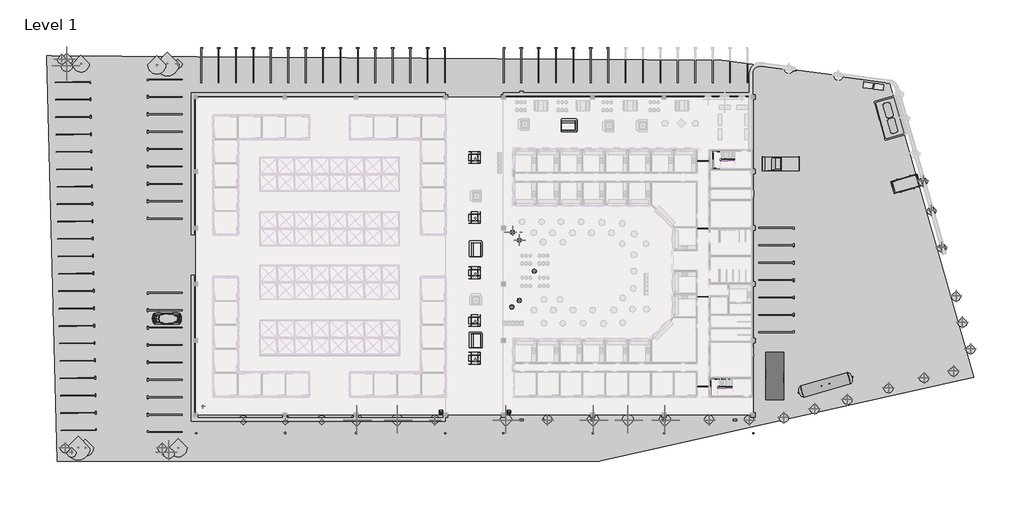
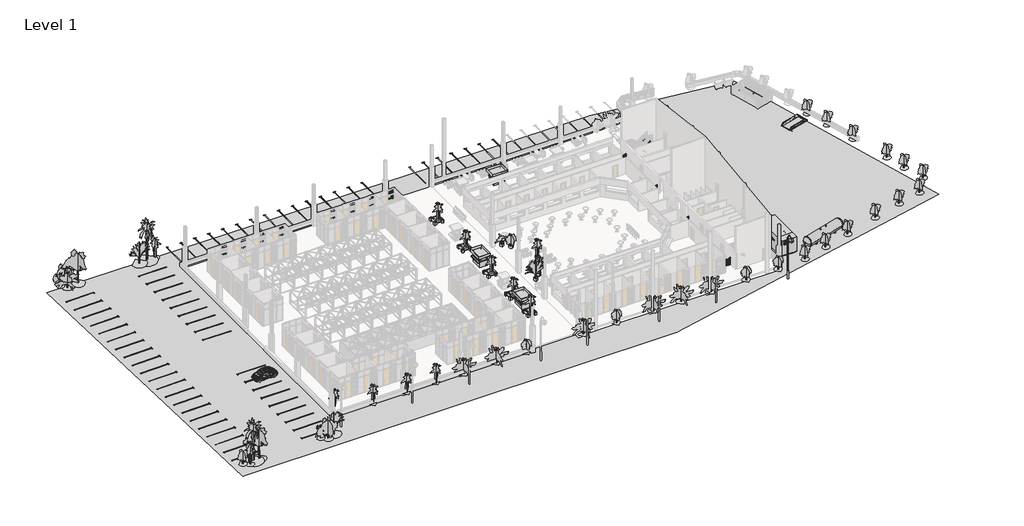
# One storey, part 31 of 32: 62 geographic elements, 30 proxies, 15 members, 1 light fixture.
"""IFC4 building model written with IfcOpenShell, lengths in millimetres."""

from ifc_helpers import new_model, si_unit, frame, origin, place, context, project, spatial, polyline, outline, extrude, faceted_brep, triangles, transform, mapped, element, save
from components import generic_models_99b6d5e4, electrical_equipment_733f82be, electrical_equipment_ca6008a4, generic_models_1cc47fd4, proxy_6_bays_6980b301, proxy_6_fence_ff0b9ed4, proxy_6_fence_7c1e0d6d, food_stall_20505_food_stall_20505_67107a66, parking_bays_standard_uk_6_bays_a1d699d5, parking_bays_standard_uk_6_bays_bfc328e1, rpc_beetle_m_rpc_beetle_m_b6d71803, trash_can_01_m_500_x_500_mm_0c5a7a72, pick_up_truck_a7c124ad, planter_04_circular_m_619_mm_dia_eed0175d, public_seating_02_m_2000_x_1650_mm_aed0595e, public_seating_02_m_2000_x_1650_mm_e61fd811, rpc_tree_tropical_44340318, rpc_tree_tropical_0b38fe0e, rpc_tree_tropical_australian_tree_fern_1_8_meters_0203a3dd, rpc_tree_tropical_cuban_royal_palm_7_5_meters_25244156, rpc_tree_tropical_golden_malay_palm_3_0_meters_7e528e70, rpc_tree_tropical_grass_palm_5_5_meters_0f61173e, rpc_tree_tropical_hurricane_palm_3_6_meters_73a83cb7, rpc_tree_tropical_japanese_fiber_banana_2_4_meters_2e6d15ad, rpc_tree_tropical_orange_tree_3_3_meters_d64634ca, lamp_post_modern_uk_standard_4f9459b1

model = new_model("IFC4")

# Units and contexts
model_context = context("Model", 3, world=origin())
ifc_project = project(units=[si_unit("LENGTHUNIT", "METRE", prefix="MILLI")], contexts=[model_context])

# Site, building, storey
site = spatial("IfcSite", under=ifc_project)
building = spatial("IfcBuilding", under=site)
storey = spatial("IfcBuildingStorey", under=building, Name="Level 1", Elevation=2800.0)

# Proxies
placement = place(None, origin())
element("IfcBuildingElementProxy", 1, Name="Building Element Proxy", at=placement, inside=storey, context=model_context, shape_type="Tessellation", body=[
    triangles([(17614.4562286, -30595.0278625, 2000.0000153), (5938.574144, 10037.7628876, 2000.0000153), (-17114.7751007, 13069.9650146, 2000.0000153), (-110199.4968018, 13693.0014038, 2000.0000153), (-108691.0121338, -42194.1175415, 2000.0000153), (-34061.2697754, -42194.1175415, 2000.0000153), (-47230.3078125, -35805.9190979, 2000.0000153), (-47230.3078125, -32527.7564026, 2000.0000153), (-47230.3078125, 7994.0800735, 2000.0000153), (-18671.2731171, 7994.0800735, 2000.0000153), (-13077.6366394, 7994.0800735, 2000.0000153), (-12800.7709808, 7994.0800735, 2000.0000153), (-12800.7709808, 7645.9763214, 2000.0000153), (-12800.7709808, -35805.9190979, 2000.0000153), (-32102.3567871, -35805.9190979, 2000.0000153), (-42764.2734375, -35805.9190979, 2000.0000153), (-89659.8388916, 7994.0800735, 2000.0000153), (-55230.3078735, 7994.0800735, 2000.0000153), (-55230.3078735, -26655.5822754, 2000.0000153), (-55230.3078735, -35805.9190979, 2000.0000153), (-89659.8388916, -35805.9190979, 2000.0000153), (-89659.8388916, -1383.5533401, 2000.0000153)], [[5, 21, 22], [21, 5, 20], [20, 7, 8], [6, 7, 20], [20, 5, 6], [19, 20, 8], [4, 22, 17], [22, 4, 5], [4, 17, 18], [18, 19, 9], [9, 19, 8], [4, 18, 3], [3, 18, 9], [16, 6, 15], [6, 16, 7], [14, 15, 6], [1, 14, 6], [1, 13, 14], [10, 11, 3], [3, 11, 12], [3, 9, 10], [13, 2, 12], [2, 13, 1], [12, 2, 3]], closed=False),
])
generic_models_shape = generic_models_99b6d5e4(model_context)
element("IfcBuildingElementProxy", 2, Name="Bulk_Fuel_Tank__5000_Gls_11818 : Bulk_Fuel_Tank__5000_Gls_11818", ObjectType="Bulk_Fuel_Tank__5000_Gls_11818 : Bulk_Fuel_Tank__5000_Gls_11818", at=placement, inside=storey, context=model_context, shape_type="MappedRepresentation", body=[
    mapped(generic_models_shape, transform((-2829.7223682, -31674.038548, 1936.7754975), x_axis=(0.9611072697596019, 0.2761753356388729, 0.0), y_axis=(-0.2761753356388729, 0.9611072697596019, 0.0), z_axis=(0.0, 0.0, 1.0))),
])
electrical_equipment_shape = electrical_equipment_733f82be(model_context)
electrical_equipment_2_shape = electrical_equipment_ca6008a4(model_context)
element("IfcBuildingElementProxy", 3, Name="Electrical_Equipment-Generac-Generator-Gemini_1000kW : MD1000GEM - 277v - 3p", ObjectType="Electrical_Equipment-Generac-Generator-Gemini_1000kW : MD1000GEM - 277v - 3p", at=placement, inside=storey, context=model_context, shape_type="MappedRepresentation", body=[
    mapped(electrical_equipment_shape, transform((-8588.2705062, -33715.7565305, 2084.1841253), x_axis=(0.0, 1.0, 0.0), y_axis=(-1.0, 0.0, 0.0), z_axis=(0.0, 0.0, 1.0))),
    mapped(electrical_equipment_2_shape, transform((-8588.2705062, -33715.7565305, 2084.1841253), x_axis=(0.0, 1.0, 0.0), y_axis=(-1.0, 0.0, 0.0), z_axis=(0.0, 0.0, 1.0))),
])
generic_models_2_shape = generic_models_1cc47fd4(model_context)
element("IfcBuildingElementProxy", 4, Name="12_cum_Skip_16496 : 12_cum_Skip_16496", ObjectType="12_cum_Skip_16496 : 12_cum_Skip_16496", at=placement, inside=storey, context=model_context, shape_type="MappedRepresentation", body=[
    mapped(generic_models_2_shape, transform((8210.8101408, -3964.640508, 1313.9419473), x_axis=(0.9621692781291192, 0.2724523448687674, 0.0), y_axis=(-0.2724523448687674, 0.9621692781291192, 0.0), z_axis=(0.0, 0.0, 1.0))),
])
proxy_6_bays_shape = proxy_6_bays_6980b301(model_context)
element("IfcBuildingElementProxy", 5, Name="Parking Bays-Standard (wst)rfa : 6 Bays", ObjectType="Parking Bays-Standard (wst)rfa : 6 Bays", at=placement, inside=storey, context=model_context, shape_type="MappedRepresentation", body=[
    mapped(proxy_6_bays_shape, transform((-12000.7705062, -10025.9199596, 1734.4407222), x_axis=(0.0, 1.0, 0.0), y_axis=(-1.0, 0.0, 0.0), z_axis=(0.0, 0.0, 1.0))),
])
element("IfcBuildingElementProxy", 6, Name="Parking Bays-Standard (wst)rfa : 6 Bays", ObjectType="Parking Bays-Standard (wst)rfa : 6 Bays", at=placement, inside=storey, context=model_context, shape_type="MappedRepresentation", body=[
    mapped(proxy_6_bays_shape, transform((-12000.7705062, -7525.9199596, 1689.33381), x_axis=(0.0, 1.0, 0.0), y_axis=(-1.0, 0.0, 0.0), z_axis=(0.0, 0.0, 1.0))),
])
proxy_6_fence_shape = proxy_6_fence_ff0b9ed4(model_context)
element("IfcBuildingElementProxy", 7, Name="Ornamental_Gate_5113 : 6' Fence", ObjectType="Ornamental_Gate_5113 : 6' Fence", at=placement, inside=storey, context=model_context, shape_type="MappedRepresentation", body=[
    mapped(proxy_6_fence_shape, transform((-18970.7705062, -31905.9199596, 2190.0809456), x_axis=(-1.0, 0.0, 0.0), y_axis=(0.0, -1.0, 0.0), z_axis=(0.0, 0.0, 1.0))),
])
element("IfcBuildingElementProxy", 8, Name="Ornamental_Gate_5113 : 6' Fence", ObjectType="Ornamental_Gate_5113 : 6' Fence", at=placement, inside=storey, context=model_context, shape_type="MappedRepresentation", body=[
    mapped(proxy_6_fence_shape, transform((-18970.7705062, -19534.8949596, 2190.0809456), x_axis=(-1.0, 0.0, 0.0), y_axis=(0.0, -1.0, 0.0), z_axis=(0.0, 0.0, 1.0))),
])
proxy_6_fence_2_shape = proxy_6_fence_7c1e0d6d(model_context)
element("IfcBuildingElementProxy", 9, Name="Ornamental_Gate_5113 : 6' Fence", ObjectType="Ornamental_Gate_5113 : 6' Fence", at=placement, inside=storey, context=model_context, shape_type="MappedRepresentation", body=[
    mapped(proxy_6_fence_2_shape, transform((-18950.7705062, -815.9199596, 2190.0809456), x_axis=(-1.0, 0.0, 0.0), y_axis=(0.0, -1.0, 0.0), z_axis=(0.0, 0.0, 1.0))),
])
element("IfcBuildingElementProxy", 10, Name="Ornamental_Gate_5113 : 6' Fence", ObjectType="Ornamental_Gate_5113 : 6' Fence", at=placement, inside=storey, context=model_context, shape_type="MappedRepresentation", body=[
    mapped(proxy_6_fence_2_shape, transform((-18950.7705062, -10115.9199596, 2190.0809456), x_axis=(-1.0, 0.0, 0.0), y_axis=(0.0, -1.0, 0.0), z_axis=(0.0, 0.0, 1.0))),
])
food_stall_20505_food_stall_20505_shape = food_stall_20505_food_stall_20505_67107a66(model_context)
element("IfcBuildingElementProxy", 11, Name="Food_stall_20505 : Food_stall_20505", ObjectType="Food_stall_20505 : Food_stall_20505", at=placement, inside=storey, context=model_context, shape_type="MappedRepresentation", body=[
    mapped(food_stall_20505_food_stall_20505_shape, transform((-51030.3056755, -25605.9199596, 2800.0), x_axis=(0.0, -1.0, 0.0), y_axis=(1.0, 0.0, 0.0), z_axis=(0.0, 0.0, 1.0))),
])
element("IfcBuildingElementProxy", 12, Name="Food_stall_20505 : Food_stall_20505", ObjectType="Food_stall_20505 : Food_stall_20505", at=placement, inside=storey, context=model_context, shape_type="MappedRepresentation", body=[
    mapped(food_stall_20505_food_stall_20505_shape, transform((-51030.3056755, -13030.9199596, 2800.0), x_axis=(0.0, -1.0, 0.0), y_axis=(1.0, 0.0, 0.0), z_axis=(0.0, 0.0, 1.0))),
])
element("IfcBuildingElementProxy", 13, Name="Food_stall_20505 : Food_stall_20505", ObjectType="Food_stall_20505 : Food_stall_20505", at=placement, inside=storey, context=model_context, shape_type="MappedRepresentation", body=[
    mapped(food_stall_20505_food_stall_20505_shape, transform((-38286.3056755, 4094.0800404, 2800.0), x_axis=(-1.0, 0.0, 0.0), y_axis=(0.0, -1.0, 0.0), z_axis=(0.0, 0.0, 1.0))),
])
parking_bays_standard_uk_6_bays_shape = parking_bays_standard_uk_6_bays_a1d699d5(model_context)
element("IfcBuildingElementProxy", 14, Name="Parking Bays-Standard (UK) : 6 Bays", ObjectType="Parking Bays-Standard (UK) : 6 Bays", at=placement, inside=storey, context=model_context, shape_type="MappedRepresentation", body=[
    mapped(parking_bays_standard_uk_6_bays_shape, transform((-12000.7705062, -24425.9199596, 1984.2565365), x_axis=(0.0, 1.0, 0.0), y_axis=(-1.0, 0.0, 0.0), z_axis=(0.0, 0.0, 1.0))),
])
element("IfcBuildingElementProxy", 15, Name="Parking Bays-Standard (UK) : 6 Bays", ObjectType="Parking Bays-Standard (UK) : 6 Bays", at=placement, inside=storey, context=model_context, shape_type="MappedRepresentation", body=[
    mapped(parking_bays_standard_uk_6_bays_shape, transform((-12000.7705062, -24425.9199596, 2100.0), x_axis=(0.0, 1.0, 0.0), y_axis=(-1.0, 0.0, 0.0), z_axis=(0.0, 0.0, 1.0))),
])
element("IfcBuildingElementProxy", 16, Name="Parking Bays-Standard (UK) : 6 Bays", ObjectType="Parking Bays-Standard (UK) : 6 Bays", at=placement, inside=storey, context=model_context, shape_type="MappedRepresentation", body=[
    mapped(parking_bays_standard_uk_6_bays_shape, transform((-91459.8408447, 5624.0800404, 2100.0), x_axis=(0.0, -1.0, 0.0), y_axis=(1.0, 0.0, 0.0), z_axis=(0.0, 0.0, 1.0))),
])
element("IfcBuildingElementProxy", 17, Name="Parking Bays-Standard (UK) : 6 Bays", ObjectType="Parking Bays-Standard (UK) : 6 Bays", at=placement, inside=storey, context=model_context, shape_type="MappedRepresentation", body=[
    mapped(parking_bays_standard_uk_6_bays_shape, transform((-74480.3056755, 9978.5855015, 2100.0), x_axis=(-1.0, 0.0, 0.0), y_axis=(0.0, -1.0, 0.0), z_axis=(0.0, 0.0, 1.0))),
])
element("IfcBuildingElementProxy", 18, Name="Parking Bays-Standard (UK) : 6 Bays", ObjectType="Parking Bays-Standard (UK) : 6 Bays", at=placement, inside=storey, context=model_context, shape_type="MappedRepresentation", body=[
    mapped(parking_bays_standard_uk_6_bays_shape, transform((-60080.3056755, 9978.5855015, 2100.0), x_axis=(-1.0, 0.0, 0.0), y_axis=(0.0, -1.0, 0.0), z_axis=(0.0, 0.0, 1.0))),
])
element("IfcBuildingElementProxy", 19, Name="Parking Bays-Standard (UK) : 6 Bays", ObjectType="Parking Bays-Standard (UK) : 6 Bays", at=placement, inside=storey, context=model_context, shape_type="MappedRepresentation", body=[
    mapped(parking_bays_standard_uk_6_bays_shape, transform((-55280.3056755, 9978.5855015, 2100.0), x_axis=(-1.0, 0.0, 0.0), y_axis=(0.0, -1.0, 0.0), z_axis=(0.0, 0.0, 1.0))),
])
element("IfcBuildingElementProxy", 20, Name="Parking Bays-Standard (UK) : 6 Bays", ObjectType="Parking Bays-Standard (UK) : 6 Bays", at=placement, inside=storey, context=model_context, shape_type="MappedRepresentation", body=[
    mapped(parking_bays_standard_uk_6_bays_shape, transform((-32780.3056755, 9978.5855015, 2100.0), x_axis=(-1.0, 0.0, 0.0), y_axis=(0.0, -1.0, 0.0), z_axis=(0.0, 0.0, 1.0))),
])
element("IfcBuildingElementProxy", 21, Name="Parking Bays-Standard (UK) : 6 Bays", ObjectType="Parking Bays-Standard (UK) : 6 Bays", at=placement, inside=storey, context=model_context, shape_type="MappedRepresentation", body=[
    mapped(parking_bays_standard_uk_6_bays_shape, transform((-91459.8408447, -18975.9199596, 2100.0), x_axis=(0.0, -1.0, 0.0), y_axis=(1.0, 0.0, 0.0), z_axis=(0.0, 0.0, 1.0))),
])
element("IfcBuildingElementProxy", 22, Name="Parking Bays-Standard (UK) : 6 Bays", ObjectType="Parking Bays-Standard (UK) : 6 Bays", at=placement, inside=storey, context=model_context, shape_type="MappedRepresentation", body=[
    mapped(parking_bays_standard_uk_6_bays_shape, transform((-91459.8408447, -23775.9199596, 2100.0), x_axis=(0.0, -1.0, 0.0), y_axis=(1.0, 0.0, 0.0), z_axis=(0.0, 0.0, 1.0))),
])
element("IfcBuildingElementProxy", 23, Name="Parking Bays-Standard (UK) : 6 Bays", ObjectType="Parking Bays-Standard (UK) : 6 Bays", at=placement, inside=storey, context=model_context, shape_type="MappedRepresentation", body=[
    mapped(parking_bays_standard_uk_6_bays_shape, transform((-91459.8408447, 10424.0800404, 2100.0), x_axis=(0.0, -1.0, 0.0), y_axis=(1.0, 0.0, 0.0), z_axis=(0.0, 0.0, 1.0))),
])
parking_bays_standard_uk_6_bays_2_shape = parking_bays_standard_uk_6_bays_bfc328e1(model_context)
element("IfcBuildingElementProxy", 24, Name="Parking Bays-Standard (UK) : 6 Bays", ObjectType="Parking Bays-Standard (UK) : 6 Bays", at=placement, inside=storey, context=model_context, shape_type="MappedRepresentation", body=[
    mapped(parking_bays_standard_uk_6_bays_2_shape, transform((-108992.8547185, 10017.1018373, 2100.0), x_axis=(0.017059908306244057, -0.9998544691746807, 0.0), y_axis=(0.9998544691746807, 0.017059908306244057, 0.0), z_axis=(0.0, 0.0, 1.0))),
])
element("IfcBuildingElementProxy", 25, Name="Parking Bays-Standard (UK) : 6 Bays", ObjectType="Parking Bays-Standard (UK) : 6 Bays", at=placement, inside=storey, context=model_context, shape_type="MappedRepresentation", body=[
    mapped(parking_bays_standard_uk_6_bays_2_shape, transform((-108747.1920389, -4380.8025188, 2100.0), x_axis=(0.017059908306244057, -0.9998544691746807, 0.0), y_axis=(0.9998544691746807, 0.017059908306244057, 0.0), z_axis=(0.0, 0.0, 1.0))),
])
element("IfcBuildingElementProxy", 26, Name="Parking Bays-Standard (UK) : 6 Bays", ObjectType="Parking Bays-Standard (UK) : 6 Bays", at=placement, inside=storey, context=model_context, shape_type="MappedRepresentation", body=[
    mapped(parking_bays_standard_uk_6_bays_2_shape, transform((-108501.5293593, -18778.7068749, 2100.0), x_axis=(0.017059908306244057, -0.9998544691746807, 0.0), y_axis=(0.9998544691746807, 0.017059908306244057, 0.0), z_axis=(0.0, 0.0, 1.0))),
])
element("IfcBuildingElementProxy", 27, Name="Parking Bays-Standard (UK) : 6 Bays", ObjectType="Parking Bays-Standard (UK) : 6 Bays", at=placement, inside=storey, context=model_context, shape_type="MappedRepresentation", body=[
    mapped(parking_bays_standard_uk_6_bays_2_shape, transform((-108419.6417994, -23578.008327, 2100.0), x_axis=(0.017059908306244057, -0.9998544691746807, 0.0), y_axis=(0.9998544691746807, 0.017059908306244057, 0.0), z_axis=(0.0, 0.0, 1.0))),
])
rpc_beetle_m_rpc_beetle_m_shape = rpc_beetle_m_rpc_beetle_m_b6d71803(model_context)
element("IfcBuildingElementProxy", 28, Name="RPC Beetle (M) : RPC Beetle (M)", ObjectType="RPC Beetle (M) : RPC Beetle (M)", at=placement, inside=storey, context=model_context, shape_type="MappedRepresentation", body=[
    mapped(rpc_beetle_m_rpc_beetle_m_shape, transform((-92376.1556755, -22543.4199596, 2760.0), x_axis=(0.0, 1.0, 0.0), y_axis=(-1.0, 0.0, 0.0), z_axis=(0.0, 0.0, 1.0))),
])
trash_can_01_m_500_x_500_mm_shape = trash_can_01_m_500_x_500_mm_0c5a7a72(model_context)
element("IfcBuildingElementProxy", 29, Name="Trash Can 01 (M) : 500 x 500 mm", ObjectType="Trash Can 01 (M) : 500 x 500 mm", at=placement, inside=storey, context=model_context, shape_type="MappedRepresentation", body=[
    mapped(trash_can_01_m_500_x_500_mm_shape, transform((-55835.2556755, -35405.9199596, 2800.0), x_axis=(1.0, 0.0, 0.0), y_axis=(0.0, 1.0, 0.0), z_axis=(0.0, 0.0, 1.0))),
])
element("IfcBuildingElementProxy", 30, Name="Trash Can 01 (M) : 500 x 500 mm", ObjectType="Trash Can 01 (M) : 500 x 500 mm", at=placement, inside=storey, context=model_context, shape_type="MappedRepresentation", body=[
    mapped(trash_can_01_m_500_x_500_mm_shape, transform((-46485.9339353, -35405.9199596, 2800.0), x_axis=(1.0, 0.0, 0.0), y_axis=(0.0, 1.0, 0.0), z_axis=(0.0, 0.0, 1.0))),
])

# Geographic elements
pick_up_truck_shape = pick_up_truck_a7c124ad(model_context)
element("IfcGeographicElement", 31, ObjectType="Truck-PickUp (M) : Pick-Up Truck", at=placement, inside=storey, context=model_context, shape_type="MappedRepresentation", body=[
    mapped(pick_up_truck_shape, transform((-9505.8320734, -1183.2816502, 1724.4407222), x_axis=(-0.0020718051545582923, -0.9999978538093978, 0.0), y_axis=(0.9999978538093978, -0.0020718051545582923, 0.0), z_axis=(0.0, 0.0, 1.0))),
])
planter_04_circular_m_619_mm_dia_shape = planter_04_circular_m_619_mm_dia_eed0175d(model_context)
element("IfcGeographicElement", 32, ObjectType="Planter 04-Circular (M) : 619 mm dia.", at=placement, inside=storey, context=model_context, shape_type="MappedRepresentation", body=[
    mapped(planter_04_circular_m_619_mm_dia_shape, transform((-46067.2300011, -20928.1246713, 2800.0), x_axis=(-1.0, 0.0, 0.0), y_axis=(0.0, -1.0, 0.0), z_axis=(0.0, 0.0, 1.0))),
])
element("IfcGeographicElement", 33, ObjectType="Planter 04-Circular (M) : 619 mm dia.", at=placement, inside=storey, context=model_context, shape_type="MappedRepresentation", body=[
    mapped(planter_04_circular_m_619_mm_dia_shape, transform((-45020.6817479, -20043.4199596, 2800.0), x_axis=(-1.0, 0.0, 0.0), y_axis=(0.0, -1.0, 0.0), z_axis=(0.0, 0.0, 1.0))),
])
element("IfcGeographicElement", 34, ObjectType="Planter 04-Circular (M) : 619 mm dia.", at=placement, inside=storey, context=model_context, shape_type="MappedRepresentation", body=[
    mapped(planter_04_circular_m_619_mm_dia_shape, transform((-42970.2320244, -15996.8561673, 2800.0), x_axis=(-1.0, 0.0, 0.0), y_axis=(0.0, -1.0, 0.0), z_axis=(0.0, 0.0, 1.0))),
])
element("IfcGeographicElement", 35, ObjectType="Planter 04-Circular (M) : 619 mm dia.", at=placement, inside=storey, context=model_context, shape_type="MappedRepresentation", body=[
    mapped(planter_04_circular_m_619_mm_dia_shape, transform((-45020.6817479, -11747.6761919, 2800.0), x_axis=(-1.0, 0.0, 0.0), y_axis=(0.0, -1.0, 0.0), z_axis=(0.0, 0.0, 1.0))),
])
element("IfcGeographicElement", 36, ObjectType="Planter 04-Circular (M) : 619 mm dia.", at=placement, inside=storey, context=model_context, shape_type="MappedRepresentation", body=[
    mapped(planter_04_circular_m_619_mm_dia_shape, transform((-45971.9493366, -10636.4086032, 2800.0), x_axis=(-1.0, 0.0, 0.0), y_axis=(0.0, -1.0, 0.0), z_axis=(0.0, 0.0, 1.0))),
])
public_seating_02_m_2000_x_1650_mm_shape = public_seating_02_m_2000_x_1650_mm_aed0595e(model_context)
element("IfcGeographicElement", 37, ObjectType="Public Seating 02 (M) : 2000 x 1650 mm", at=placement, inside=storey, context=model_context, shape_type="MappedRepresentation", body=[
    mapped(public_seating_02_m_2000_x_1650_mm_shape, transform((-51230.3056755, -16210.9199596, 2800.0), x_axis=(-1.0, 0.0, 0.0), y_axis=(0.0, -1.0, 0.0), z_axis=(0.0, 0.0, 1.0))),
])
element("IfcGeographicElement", 38, ObjectType="Public Seating 02 (M) : 2000 x 1650 mm", at=placement, inside=storey, context=model_context, shape_type="MappedRepresentation", body=[
    mapped(public_seating_02_m_2000_x_1650_mm_shape, transform((-51230.3056755, -22763.1175809, 2800.0), x_axis=(-1.0, 0.0, 0.0), y_axis=(0.0, -1.0, 0.0), z_axis=(0.0, 0.0, 1.0))),
])
element("IfcGeographicElement", 39, ObjectType="Public Seating 02 (M) : 2000 x 1650 mm", at=placement, inside=storey, context=model_context, shape_type="MappedRepresentation", body=[
    mapped(public_seating_02_m_2000_x_1650_mm_shape, transform((-51230.3056755, -27985.9199596, 2800.0), x_axis=(-1.0, 0.0, 0.0), y_axis=(0.0, -1.0, 0.0), z_axis=(0.0, 0.0, 1.0))),
])
element("IfcGeographicElement", 40, ObjectType="Public Seating 02 (M) : 2000 x 1650 mm", at=placement, inside=storey, context=model_context, shape_type="MappedRepresentation", body=[
    mapped(public_seating_02_m_2000_x_1650_mm_shape, transform((-51230.3056755, -8579.1082733, 2800.0), x_axis=(-1.0, 0.0, 0.0), y_axis=(0.0, -1.0, 0.0), z_axis=(0.0, 0.0, 1.0))),
])
public_seating_02_m_2000_x_1650_mm_2_shape = public_seating_02_m_2000_x_1650_mm_e61fd811(model_context)
element("IfcGeographicElement", 41, ObjectType="Public Seating 02 (M) : 2000 x 1650 mm", at=placement, inside=storey, context=model_context, shape_type="MappedRepresentation", body=[
    mapped(public_seating_02_m_2000_x_1650_mm_2_shape, transform((-51230.3056755, -348.4199596, 2800.0), x_axis=(-1.0, 0.0, 0.0), y_axis=(0.0, -1.0, 0.0), z_axis=(0.0, 0.0, 1.0))),
])
rpc_tree_tropical_shape = rpc_tree_tropical_44340318(model_context)
element("IfcGeographicElement", 42, ObjectType="RPC Tree - Tropical : Travelers Palm - 3.9 Meters", at=placement, inside=storey, context=model_context, shape_type="MappedRepresentation", body=[
    mapped(rpc_tree_tropical_shape, transform((-46073.1740961, -20932.3952729, 2800.0), x_axis=(-1.0, 0.0, 0.0), y_axis=(0.0, -1.0, 0.0), z_axis=(0.0, 0.0, 1.0))),
])
element("IfcGeographicElement", 43, ObjectType="RPC Tree - Tropical : Travelers Palm - 3.9 Meters", at=placement, inside=storey, context=model_context, shape_type="MappedRepresentation", body=[
    mapped(rpc_tree_tropical_shape, transform((-92052.4495654, -40341.919367, 2800.0), x_axis=(1.0, 0.0, 0.0), y_axis=(0.0, 1.0, 0.0), z_axis=(0.0, 0.0, 1.0))),
])
element("IfcGeographicElement", 44, ObjectType="RPC Tree - Tropical : Travelers Palm - 3.9 Meters", at=placement, inside=storey, context=model_context, shape_type="MappedRepresentation", body=[
    mapped(rpc_tree_tropical_shape, transform((-94991.1290026, 12426.2216008, 2800.0), x_axis=(1.0, 0.0, 0.0), y_axis=(0.0, 1.0, 0.0), z_axis=(0.0, 0.0, 1.0))),
])
rpc_tree_tropical_2_shape = rpc_tree_tropical_0b38fe0e(model_context)
element("IfcGeographicElement", 45, ObjectType="RPC Tree - Tropical : Windmill Palm - 2.4 Meters", at=placement, inside=storey, context=model_context, shape_type="MappedRepresentation", body=[
    mapped(rpc_tree_tropical_2_shape, transform((-45015.1090044, -11747.7041227, 2800.0), x_axis=(-1.0, 0.0, 0.0), y_axis=(0.0, -1.0, 0.0), z_axis=(0.0, 0.0, 1.0))),
])
element("IfcGeographicElement", 46, ObjectType="RPC Tree - Tropical : Windmill Palm - 2.4 Meters", at=placement, inside=storey, context=model_context, shape_type="MappedRepresentation", body=[
    mapped(rpc_tree_tropical_2_shape, transform((-13354.9971862, -36543.6597127, 2800.0), x_axis=(-1.0, 0.0, 0.0), y_axis=(0.0, -1.0, 0.0), z_axis=(0.0, 0.0, 1.0))),
])
element("IfcGeographicElement", 47, ObjectType="RPC Tree - Tropical : Windmill Palm - 2.4 Meters", at=placement, inside=storey, context=model_context, shape_type="MappedRepresentation", body=[
    mapped(rpc_tree_tropical_2_shape, transform((-18871.8287804, -36543.6597127, 2800.0), x_axis=(-1.0, 0.0, 0.0), y_axis=(0.0, -1.0, 0.0), z_axis=(0.0, 0.0, 1.0))),
])
element("IfcGeographicElement", 48, ObjectType="RPC Tree - Tropical : Windmill Palm - 2.4 Meters", at=placement, inside=storey, context=model_context, shape_type="MappedRepresentation", body=[
    mapped(rpc_tree_tropical_2_shape, transform((-41171.9922095, -36543.6597127, 2800.0), x_axis=(-1.0, 0.0, 0.0), y_axis=(0.0, -1.0, 0.0), z_axis=(0.0, 0.0, 1.0))),
])
element("IfcGeographicElement", 49, ObjectType="RPC Tree - Tropical : Windmill Palm - 2.4 Meters", at=placement, inside=storey, context=model_context, shape_type="MappedRepresentation", body=[
    mapped(rpc_tree_tropical_2_shape, transform((-56671.9922095, -36543.6597127, 2800.0), x_axis=(-1.0, 0.0, 0.0), y_axis=(0.0, -1.0, 0.0), z_axis=(0.0, 0.0, 1.0))),
])
element("IfcGeographicElement", 50, ObjectType="RPC Tree - Tropical : Windmill Palm - 2.4 Meters", at=placement, inside=storey, context=model_context, shape_type="MappedRepresentation", body=[
    mapped(rpc_tree_tropical_2_shape, transform((-107652.4495654, -40341.919367, 2800.0), x_axis=(1.0, 0.0, 0.0), y_axis=(0.0, 1.0, 0.0), z_axis=(0.0, 0.0, 1.0))),
])
element("IfcGeographicElement", 51, ObjectType="RPC Tree - Tropical : Windmill Palm - 2.4 Meters", at=placement, inside=storey, context=model_context, shape_type="MappedRepresentation", body=[
    mapped(rpc_tree_tropical_2_shape, transform((-107400.7887613, 13244.4843266, 2800.0), x_axis=(1.0, 0.0, 0.0), y_axis=(0.0, 1.0, 0.0), z_axis=(0.0, 0.0, 1.0))),
])
element("IfcGeographicElement", 52, ObjectType="RPC Tree - Tropical : Windmill Palm - 2.4 Meters", at=placement, inside=storey, context=model_context, shape_type="MappedRepresentation", body=[
    mapped(rpc_tree_tropical_2_shape, transform((10611.4960584, -3554.559944, 2800.0), x_axis=(1.0, 0.0, 0.0), y_axis=(0.0, 1.0, 0.0), z_axis=(0.0, 0.0, 1.0))),
])
element("IfcGeographicElement", 53, ObjectType="RPC Tree - Tropical : Windmill Palm - 2.4 Meters", at=placement, inside=storey, context=model_context, shape_type="MappedRepresentation", body=[
    mapped(rpc_tree_tropical_2_shape, transform((11754.9108443, -7595.9214259, 2800.0), x_axis=(1.0, 0.0, 0.0), y_axis=(0.0, 1.0, 0.0), z_axis=(0.0, 0.0, 1.0))),
])
element("IfcGeographicElement", 54, ObjectType="RPC Tree - Tropical : Windmill Palm - 2.4 Meters", at=placement, inside=storey, context=model_context, shape_type="MappedRepresentation", body=[
    mapped(rpc_tree_tropical_2_shape, transform((13197.7914074, -12695.7347245, 2800.0), x_axis=(1.0, 0.0, 0.0), y_axis=(0.0, 1.0, 0.0), z_axis=(0.0, 0.0, 1.0))),
])
element("IfcGeographicElement", 55, ObjectType="RPC Tree - Tropical : Windmill Palm - 2.4 Meters", at=placement, inside=storey, context=model_context, shape_type="MappedRepresentation", body=[
    mapped(rpc_tree_tropical_2_shape, transform((15166.1991595, -19407.8134931, 2800.0), x_axis=(1.0, 0.0, 0.0), y_axis=(0.0, 1.0, 0.0), z_axis=(0.0, 0.0, 1.0))),
])
element("IfcGeographicElement", 56, ObjectType="RPC Tree - Tropical : Windmill Palm - 2.4 Meters", at=placement, inside=storey, context=model_context, shape_type="MappedRepresentation", body=[
    mapped(rpc_tree_tropical_2_shape, transform((17177.4374899, -26697.0081659, 2800.0), x_axis=(1.0, 0.0, 0.0), y_axis=(0.0, 1.0, 0.0), z_axis=(0.0, 0.0, 1.0))),
])
element("IfcGeographicElement", 57, ObjectType="RPC Tree - Tropical : Windmill Palm - 2.4 Meters", at=placement, inside=storey, context=model_context, shape_type="MappedRepresentation", body=[
    mapped(rpc_tree_tropical_2_shape, transform((14826.0260001, -29749.4834736, 2800.0), x_axis=(1.0, 0.0, 0.0), y_axis=(0.0, 1.0, 0.0), z_axis=(0.0, 0.0, 1.0))),
])
element("IfcGeographicElement", 58, ObjectType="RPC Tree - Tropical : Windmill Palm - 2.4 Meters", at=placement, inside=storey, context=model_context, shape_type="MappedRepresentation", body=[
    mapped(rpc_tree_tropical_2_shape, transform((10764.1879189, -30685.6235609, 2800.0), x_axis=(1.0, 0.0, 0.0), y_axis=(0.0, 1.0, 0.0), z_axis=(0.0, 0.0, 1.0))),
])
element("IfcGeographicElement", 59, ObjectType="RPC Tree - Tropical : Windmill Palm - 2.4 Meters", at=placement, inside=storey, context=model_context, shape_type="MappedRepresentation", body=[
    mapped(rpc_tree_tropical_2_shape, transform((5857.1246005, -32075.1305197, 2800.0), x_axis=(1.0, 0.0, 0.0), y_axis=(0.0, 1.0, 0.0), z_axis=(0.0, 0.0, 1.0))),
])
element("IfcGeographicElement", 60, ObjectType="RPC Tree - Tropical : Windmill Palm - 2.4 Meters", at=placement, inside=storey, context=model_context, shape_type="MappedRepresentation", body=[
    mapped(rpc_tree_tropical_2_shape, transform((180.0128081, -33681.493398, 2800.0), x_axis=(1.0, 0.0, 0.0), y_axis=(0.0, 1.0, 0.0), z_axis=(0.0, 0.0, 1.0))),
])
element("IfcGeographicElement", 61, ObjectType="RPC Tree - Tropical : Windmill Palm - 2.4 Meters", at=placement, inside=storey, context=model_context, shape_type="MappedRepresentation", body=[
    mapped(rpc_tree_tropical_2_shape, transform((-4342.463136, -34961.0289916, 2800.0), x_axis=(1.0, 0.0, 0.0), y_axis=(0.0, 1.0, 0.0), z_axis=(0.0, 0.0, 1.0))),
])
element("IfcGeographicElement", 62, ObjectType="RPC Tree - Tropical : Windmill Palm - 2.4 Meters", at=placement, inside=storey, context=model_context, shape_type="MappedRepresentation", body=[
    mapped(rpc_tree_tropical_2_shape, transform((-8576.2414218, -36158.994528, 2800.0), x_axis=(1.0, 0.0, 0.0), y_axis=(0.0, 1.0, 0.0), z_axis=(0.0, 0.0, 1.0))),
])
element("IfcGeographicElement", 63, ObjectType="RPC Tree - Tropical : Windmill Palm - 2.4 Meters", at=placement, inside=storey, context=model_context, shape_type="MappedRepresentation", body=[
    mapped(rpc_tree_tropical_2_shape, transform((16044.8129424, -23010.2842172, 2800.0), x_axis=(1.0, 0.0, 0.0), y_axis=(0.0, 1.0, 0.0), z_axis=(0.0, 0.0, 1.0))),
])
rpc_tree_tropical_australian_tree_fern_1_8_meters_shape = rpc_tree_tropical_australian_tree_fern_1_8_meters_0203a3dd(model_context)
element("IfcGeographicElement", 64, ObjectType="RPC Tree - Tropical : Australian Tree Fern - 1.8 Meters", at=placement, inside=storey, context=model_context, shape_type="MappedRepresentation", body=[
    mapped(rpc_tree_tropical_australian_tree_fern_1_8_meters_shape, transform((-45940.1090044, -10638.3199596, 2800.0), x_axis=(-1.0, 0.0, 0.0), y_axis=(0.0, -1.0, 0.0), z_axis=(0.0, 0.0, 1.0))),
])
rpc_tree_tropical_cuban_royal_palm_7_5_meters_shape = rpc_tree_tropical_cuban_royal_palm_7_5_meters_25244156(model_context)
element("IfcGeographicElement", 65, ObjectType="RPC Tree - Tropical : Cuban Royal Palm - 7.5 Meters", at=placement, inside=storey, context=model_context, shape_type="MappedRepresentation", body=[
    mapped(rpc_tree_tropical_cuban_royal_palm_7_5_meters_shape, transform((-93552.4495654, 12594.0800404, 2800.0), x_axis=(1.0, 0.0, 0.0), y_axis=(0.0, 1.0, 0.0), z_axis=(0.0, 0.0, 1.0))),
])
element("IfcGeographicElement", 66, ObjectType="RPC Tree - Tropical : Cuban Royal Palm - 7.5 Meters", at=placement, inside=storey, context=model_context, shape_type="MappedRepresentation", body=[
    mapped(rpc_tree_tropical_cuban_royal_palm_7_5_meters_shape, transform((-105848.14242, -40341.919367, 2800.0), x_axis=(1.0, 0.0, 0.0), y_axis=(0.0, 1.0, 0.0), z_axis=(0.0, 0.0, 1.0))),
])
rpc_tree_tropical_golden_malay_palm_3_0_meters_shape = rpc_tree_tropical_golden_malay_palm_3_0_meters_7e528e70(model_context)
element("IfcGeographicElement", 67, ObjectType="RPC Tree - Tropical : Golden Malay Palm - 3.0 Meters", at=placement, inside=storey, context=model_context, shape_type="MappedRepresentation", body=[
    mapped(rpc_tree_tropical_golden_malay_palm_3_0_meters_shape, transform((-24971.8287804, -36543.6597127, 2800.0), x_axis=(-1.0, 0.0, 0.0), y_axis=(0.0, -1.0, 0.0), z_axis=(0.0, 0.0, 1.0))),
])
element("IfcGeographicElement", 68, ObjectType="RPC Tree - Tropical : Golden Malay Palm - 3.0 Meters", at=placement, inside=storey, context=model_context, shape_type="MappedRepresentation", body=[
    mapped(rpc_tree_tropical_golden_malay_palm_3_0_meters_shape, transform((-30071.9922095, -36543.6597127, 2800.0), x_axis=(-1.0, 0.0, 0.0), y_axis=(0.0, -1.0, 0.0), z_axis=(0.0, 0.0, 1.0))),
])
element("IfcGeographicElement", 69, ObjectType="RPC Tree - Tropical : Golden Malay Palm - 3.0 Meters", at=placement, inside=storey, context=model_context, shape_type="MappedRepresentation", body=[
    mapped(rpc_tree_tropical_golden_malay_palm_3_0_meters_shape, transform((-34871.9922095, -36543.6597127, 2800.0), x_axis=(-1.0, 0.0, 0.0), y_axis=(0.0, -1.0, 0.0), z_axis=(0.0, 0.0, 1.0))),
])
element("IfcGeographicElement", 70, ObjectType="RPC Tree - Tropical : Golden Malay Palm - 3.0 Meters", at=placement, inside=storey, context=model_context, shape_type="MappedRepresentation", body=[
    mapped(rpc_tree_tropical_golden_malay_palm_3_0_meters_shape, transform((-46871.9922095, -36543.6597127, 2800.0), x_axis=(-1.0, 0.0, 0.0), y_axis=(0.0, -1.0, 0.0), z_axis=(0.0, 0.0, 1.0))),
])
element("IfcGeographicElement", 71, ObjectType="RPC Tree - Tropical : Golden Malay Palm - 3.0 Meters", at=placement, inside=storey, context=model_context, shape_type="MappedRepresentation", body=[
    mapped(rpc_tree_tropical_golden_malay_palm_3_0_meters_shape, transform((-61871.9922095, -36543.6597127, 2800.0), x_axis=(-1.0, 0.0, 0.0), y_axis=(0.0, -1.0, 0.0), z_axis=(0.0, 0.0, 1.0))),
])
element("IfcGeographicElement", 72, ObjectType="RPC Tree - Tropical : Golden Malay Palm - 3.0 Meters", at=placement, inside=storey, context=model_context, shape_type="MappedRepresentation", body=[
    mapped(rpc_tree_tropical_golden_malay_palm_3_0_meters_shape, transform((-67471.9922095, -36543.6597127, 2800.0), x_axis=(-1.0, 0.0, 0.0), y_axis=(0.0, -1.0, 0.0), z_axis=(0.0, 0.0, 1.0))),
])
element("IfcGeographicElement", 73, ObjectType="RPC Tree - Tropical : Golden Malay Palm - 3.0 Meters", at=placement, inside=storey, context=model_context, shape_type="MappedRepresentation", body=[
    mapped(rpc_tree_tropical_golden_malay_palm_3_0_meters_shape, transform((-107400.7887613, 12333.6379653, 2800.0), x_axis=(1.0, 0.0, 0.0), y_axis=(0.0, 1.0, 0.0), z_axis=(0.0, 0.0, 1.0))),
])
rpc_tree_tropical_grass_palm_5_5_meters_shape = rpc_tree_tropical_grass_palm_5_5_meters_0f61173e(model_context)
element("IfcGeographicElement", 74, ObjectType="RPC Tree - Tropical : Grass Palm - 5.5 Meters", at=placement, inside=storey, context=model_context, shape_type="MappedRepresentation", body=[
    mapped(rpc_tree_tropical_grass_palm_5_5_meters_shape, transform((-104852.4495654, -40341.919367, 2800.0), x_axis=(1.0, 0.0, 0.0), y_axis=(0.0, 1.0, 0.0), z_axis=(0.0, 0.0, 1.0))),
])
element("IfcGeographicElement", 75, ObjectType="RPC Tree - Tropical : Grass Palm - 5.5 Meters", at=placement, inside=storey, context=model_context, shape_type="MappedRepresentation", body=[
    mapped(rpc_tree_tropical_grass_palm_5_5_meters_shape, transform((-105452.4495654, 12594.0800404, 2800.0), x_axis=(1.0, 0.0, 0.0), y_axis=(0.0, 1.0, 0.0), z_axis=(0.0, 0.0, 1.0))),
])
rpc_tree_tropical_hurricane_palm_3_6_meters_shape = rpc_tree_tropical_hurricane_palm_3_6_meters_73a83cb7(model_context)
element("IfcGeographicElement", 76, ObjectType="RPC Tree - Tropical : Hurricane Palm - 3.6 Meters", at=placement, inside=storey, context=model_context, shape_type="MappedRepresentation", body=[
    mapped(rpc_tree_tropical_hurricane_palm_3_6_meters_shape, transform((-45015.1090044, -20043.4199596, 2800.0), x_axis=(-1.0, 0.0, 0.0), y_axis=(0.0, -1.0, 0.0), z_axis=(0.0, 0.0, 1.0))),
])
element("IfcGeographicElement", 77, ObjectType="RPC Tree - Tropical : Hurricane Palm - 3.6 Meters", at=placement, inside=storey, context=model_context, shape_type="MappedRepresentation", body=[
    mapped(rpc_tree_tropical_hurricane_palm_3_6_meters_shape, transform((-42985.5738351, -16008.3806831, 2800.0), x_axis=(-1.0, 0.0, 0.0), y_axis=(0.0, -1.0, 0.0), z_axis=(0.0, 0.0, 1.0))),
])
element("IfcGeographicElement", 78, ObjectType="RPC Tree - Tropical : Hurricane Palm - 3.6 Meters", at=placement, inside=storey, context=model_context, shape_type="MappedRepresentation", body=[
    mapped(rpc_tree_tropical_hurricane_palm_3_6_meters_shape, transform((-51077.6352993, -16368.3806831, 2800.0), x_axis=(-1.0, 0.0, 0.0), y_axis=(0.0, -1.0, 0.0), z_axis=(0.0, 0.0, 1.0))),
])
element("IfcGeographicElement", 79, ObjectType="RPC Tree - Tropical : Hurricane Palm - 3.6 Meters", at=placement, inside=storey, context=model_context, shape_type="MappedRepresentation", body=[
    mapped(rpc_tree_tropical_hurricane_palm_3_6_meters_shape, transform((-51077.6352993, -8736.5689968, 2800.0), x_axis=(-1.0, 0.0, 0.0), y_axis=(0.0, -1.0, 0.0), z_axis=(0.0, 0.0, 1.0))),
])
element("IfcGeographicElement", 80, ObjectType="RPC Tree - Tropical : Hurricane Palm - 3.6 Meters", at=placement, inside=storey, context=model_context, shape_type="MappedRepresentation", body=[
    mapped(rpc_tree_tropical_hurricane_palm_3_6_meters_shape, transform((-51077.6352993, -503.9252621, 2800.0), x_axis=(-1.0, 0.0, 0.0), y_axis=(0.0, -1.0, 0.0), z_axis=(0.0, 0.0, 1.0))),
])
element("IfcGeographicElement", 81, ObjectType="RPC Tree - Tropical : Hurricane Palm - 3.6 Meters", at=placement, inside=storey, context=model_context, shape_type="MappedRepresentation", body=[
    mapped(rpc_tree_tropical_hurricane_palm_3_6_meters_shape, transform((-51077.6352993, -22920.5783044, 2800.0), x_axis=(-1.0, 0.0, 0.0), y_axis=(0.0, -1.0, 0.0), z_axis=(0.0, 0.0, 1.0))),
])
element("IfcGeographicElement", 82, ObjectType="RPC Tree - Tropical : Hurricane Palm - 3.6 Meters", at=placement, inside=storey, context=model_context, shape_type="MappedRepresentation", body=[
    mapped(rpc_tree_tropical_hurricane_palm_3_6_meters_shape, transform((-51077.6352993, -28137.4029726, 2800.0), x_axis=(-1.0, 0.0, 0.0), y_axis=(0.0, -1.0, 0.0), z_axis=(0.0, 0.0, 1.0))),
])
element("IfcGeographicElement", 83, ObjectType="RPC Tree - Tropical : Hurricane Palm - 3.6 Meters", at=placement, inside=storey, context=model_context, shape_type="MappedRepresentation", body=[
    mapped(rpc_tree_tropical_hurricane_palm_3_6_meters_shape, transform((-72271.9922095, -36543.6597127, 2800.0), x_axis=(-1.0, 0.0, 0.0), y_axis=(0.0, -1.0, 0.0), z_axis=(0.0, 0.0, 1.0))),
])
element("IfcGeographicElement", 84, ObjectType="RPC Tree - Tropical : Hurricane Palm - 3.6 Meters", at=placement, inside=storey, context=model_context, shape_type="MappedRepresentation", body=[
    mapped(rpc_tree_tropical_hurricane_palm_3_6_meters_shape, transform((-77271.9922095, -36543.6597127, 2800.0), x_axis=(-1.0, 0.0, 0.0), y_axis=(0.0, -1.0, 0.0), z_axis=(0.0, 0.0, 1.0))),
])
element("IfcGeographicElement", 85, ObjectType="RPC Tree - Tropical : Hurricane Palm - 3.6 Meters", at=placement, inside=storey, context=model_context, shape_type="MappedRepresentation", body=[
    mapped(rpc_tree_tropical_hurricane_palm_3_6_meters_shape, transform((-83071.9922095, -36543.6597127, 2800.0), x_axis=(-1.0, 0.0, 0.0), y_axis=(0.0, -1.0, 0.0), z_axis=(0.0, 0.0, 1.0))),
])
element("IfcGeographicElement", 86, ObjectType="RPC Tree - Tropical : Hurricane Palm - 3.6 Meters", at=placement, inside=storey, context=model_context, shape_type="MappedRepresentation", body=[
    mapped(rpc_tree_tropical_hurricane_palm_3_6_meters_shape, transform((-88652.0562232, -34638.667229, 2800.0), x_axis=(-1.0, 0.0, 0.0), y_axis=(0.0, -1.0, 0.0), z_axis=(0.0, 0.0, 1.0))),
])
element("IfcGeographicElement", 87, ObjectType="RPC Tree - Tropical : Hurricane Palm - 3.6 Meters", at=placement, inside=storey, context=model_context, shape_type="MappedRepresentation", body=[
    mapped(rpc_tree_tropical_hurricane_palm_3_6_meters_shape, transform((-106735.5260714, -40984.09382, 2800.0), x_axis=(1.0, 0.0, 0.0), y_axis=(0.0, 1.0, 0.0), z_axis=(0.0, 0.0, 1.0))),
])
element("IfcGeographicElement", 88, ObjectType="RPC Tree - Tropical : Hurricane Palm - 3.6 Meters", at=placement, inside=storey, context=model_context, shape_type="MappedRepresentation", body=[
    mapped(rpc_tree_tropical_hurricane_palm_3_6_meters_shape, transform((-92148.6361451, 12594.0800404, 2800.0), x_axis=(1.0, 0.0, 0.0), y_axis=(0.0, 1.0, 0.0), z_axis=(0.0, 0.0, 1.0))),
])
rpc_tree_tropical_japanese_fiber_banana_2_4_meters_shape = rpc_tree_tropical_japanese_fiber_banana_2_4_meters_2e6d15ad(model_context)
element("IfcGeographicElement", 89, ObjectType="RPC Tree - Tropical : Japanese Fiber Banana - 2.4 Meters", at=placement, inside=storey, context=model_context, shape_type="MappedRepresentation", body=[
    mapped(rpc_tree_tropical_japanese_fiber_banana_2_4_meters_shape, transform((-94252.4495654, -40341.919367, 2800.0), x_axis=(1.0, 0.0, 0.0), y_axis=(0.0, 1.0, 0.0), z_axis=(0.0, 0.0, 1.0))),
])
element("IfcGeographicElement", 90, ObjectType="RPC Tree - Tropical : Japanese Fiber Banana - 2.4 Meters", at=placement, inside=storey, context=model_context, shape_type="MappedRepresentation", body=[
    mapped(rpc_tree_tropical_japanese_fiber_banana_2_4_meters_shape, transform((-108105.701712, 13244.4843266, 2800.0), x_axis=(1.0, 0.0, 0.0), y_axis=(0.0, 1.0, 0.0), z_axis=(0.0, 0.0, 1.0))),
])
rpc_tree_tropical_orange_tree_3_3_meters_shape = rpc_tree_tropical_orange_tree_3_3_meters_d64634ca(model_context)
element("IfcGeographicElement", 91, ObjectType="RPC Tree - Tropical : Orange Tree - 3.3 Meters", at=placement, inside=storey, context=model_context, shape_type="MappedRepresentation", body=[
    mapped(rpc_tree_tropical_orange_tree_3_3_meters_shape, transform((-93335.5260714, -40984.09382, 2800.0), x_axis=(1.0, 0.0, 0.0), y_axis=(0.0, 1.0, 0.0), z_axis=(0.0, 0.0, 1.0))),
])
element("IfcGeographicElement", 92, ObjectType="RPC Tree - Tropical : Orange Tree - 3.3 Meters", at=placement, inside=storey, context=model_context, shape_type="MappedRepresentation", body=[
    mapped(rpc_tree_tropical_orange_tree_3_3_meters_shape, transform((-107400.7887613, 13244.4843266, 2800.0), x_axis=(1.0, 0.0, 0.0), y_axis=(0.0, 1.0, 0.0), z_axis=(0.0, 0.0, 1.0))),
])

# Light fixture
lamp_post_modern_uk_standard_shape = lamp_post_modern_uk_standard_4f9459b1(model_context)
element("IfcLightFixture", 93, ObjectType="Lamp Post-Modern (UK) : Standard", at=placement, inside=storey, context=model_context, shape_type="MappedRepresentation", body=[
    mapped(lamp_post_modern_uk_standard_shape, transform((-12760.7705062, -38340.0012474, 2000.0), x_axis=(1.0, 0.0, 0.0), y_axis=(0.0, 1.0, 0.0), z_axis=(0.0, 0.0, 1.0))),
])

# Members
element("IfcMember", 94, ObjectType="Stringer-50mm_Width", at=placement, inside=storey, context=model_context, shape_type="SweptSolid", body=[
    extrude(outline(polyline([(2800.0, -15660.7705062), (3033.0589054, -15660.7705062), (4333.0589054, -17610.7705062), (3852.3187354, -17610.7705062), (2800.0, -16032.2924031), (2800.0, -15660.7705062)])), frame((0.0, -31915.7565305, 0.0), z_axis=(0.0, 1.0, 0.0), x_axis=(0.0, 0.0, 1.0)), (0.0, 0.0, 1.0), 50.0),
])
element("IfcMember", 95, ObjectType="Stringer-50mm_Width", at=placement, inside=storey, context=model_context, shape_type="SweptSolid", body=[
    extrude(outline(polyline([(2800.0, -15660.7705062), (3033.0589054, -15660.7705062), (4342.4365081, -17624.8369102), (3942.4365081, -17745.9471653), (2800.0, -16032.2924031), (2800.0, -15660.7705062)])), frame((0.0, -30865.7565305, 0.0), z_axis=(0.0, 1.0, 0.0), x_axis=(0.0, 0.0, 1.0)), (0.0, 0.0, 1.0), 50.0),
])
element("IfcMember", 96, ObjectType="Stringer-50mm_Width", at=placement, inside=storey, context=model_context, shape_type="SweptSolid", body=[
    extrude(outline(polyline([(4533.0589054, -17660.7705062), (4052.3187354, -17660.7705062), (5385.6520687, -15660.7705062), (5866.3922388, -15660.7705062), (4533.0589054, -17660.7705062)])), frame((0.0, -32165.7565305, 0.0), z_axis=(0.0, 1.0, 0.0), x_axis=(0.0, 0.0, 1.0)), (0.0, 0.0, 1.0), 50.0),
])
element("IfcMember", 97, ObjectType="Stringer-50mm_Width", at=placement, inside=storey, context=model_context, shape_type="SweptSolid", body=[
    extrude(outline(polyline([(4342.4365081, -17946.7041021), (3942.4365081, -17825.593847), (5385.6520687, -15660.7705062), (5866.3922388, -15660.7705062), (4342.4365081, -17946.7041021)])), frame((0.0, -33215.7565305, 0.0), z_axis=(0.0, 1.0, 0.0), x_axis=(0.0, 0.0, 1.0)), (0.0, 0.0, 1.0), 50.0),
])
element("IfcMember", 98, ObjectType="Stringer-50mm_Width", at=placement, inside=storey, context=model_context, shape_type="SweptSolid", body=[
    extrude(outline(polyline([(-17610.7705062, -32115.7565305), (-17660.7705062, -32115.7565305), (-17660.7705062, -31865.7565305), (-17610.7705062, -31865.7565305), (-17610.7705062, -32115.7565305)])), frame((0.0, 0.0, 3942.4365081), z_axis=(0.0, 0.0, 1.0), x_axis=(1.0, 0.0, 0.0)), (0.0, 0.0, 1.0), 400.0),
])
element("IfcMember", 99, ObjectType="Stringer-50mm_Width", at=placement, inside=storey, context=model_context, shape_type="Brep", body=[
    faceted_brep([(-17624.8369102, -30865.7565305, 4342.4365081), (-17624.8369102, -30815.7565305, 4342.4365081), (-18710.7705062, -30815.7565305, 4342.4365081), (-18660.7705062, -30865.7565305, 4342.4365081), (-17745.9471653, -30865.7565305, 3942.4365081), (-18660.7705062, -30865.7565305, 3942.4365081), (-17745.9471653, -30815.7565305, 3942.4365081), (-18710.7705062, -30815.7565305, 3942.4365081)], [[[0, 1, 2, 3]], [[4, 0, 3, 5]], [[6, 4, 5, 7]], [[1, 6, 7, 2]], [[1, 0, 4, 6]], [[2, 7, 5, 3]]]),
])
element("IfcMember", 100, ObjectType="Stringer-50mm_Width", at=placement, inside=storey, context=model_context, shape_type="SweptSolid", body=[
    extrude(outline(polyline([(-18710.7705062, -30815.7565305), (-18660.7705062, -30865.7565305), (-18660.7705062, -33165.7565305), (-18710.7705062, -33215.7565305), (-18710.7705062, -30815.7565305)])), frame((0.0, 0.0, 3942.4365081), z_axis=(0.0, 0.0, 1.0), x_axis=(1.0, 0.0, 0.0)), (0.0, 0.0, 1.0), 400.0),
])
element("IfcMember", 101, ObjectType="Stringer-50mm_Width", at=placement, inside=storey, context=model_context, shape_type="Brep", body=[
    faceted_brep([(-18660.7705062, -33165.7565305, 4342.4365081), (-18710.7705062, -33215.7565305, 4342.4365081), (-17946.7041021, -33215.7565305, 4342.4365081), (-17946.7041021, -33165.7565305, 4342.4365081), (-18660.7705062, -33165.7565305, 3942.4365081), (-17825.593847, -33165.7565305, 3942.4365081), (-18710.7705062, -33215.7565305, 3942.4365081), (-17825.593847, -33215.7565305, 3942.4365081)], [[[0, 1, 2, 3]], [[4, 0, 3, 5]], [[6, 4, 5, 7]], [[1, 6, 7, 2]], [[1, 0, 4, 6]], [[2, 7, 5, 3]]]),
])
element("IfcMember", 102, ObjectType="Stringer-50mm_Width", at=placement, inside=storey, context=model_context, shape_type="SweptSolid", body=[
    extrude(outline(polyline([(2800.0, -15325.9339353), (3033.0589054, -15325.9339353), (4333.0589054, -17275.9339353), (3852.3187354, -17275.9339353), (2800.0, -15697.4558322), (2800.0, -15325.9339353)])), frame((0.0, -556.3199596, 0.0), z_axis=(0.0, 1.0, 0.0), x_axis=(0.0, 0.0, 1.0)), (0.0, 0.0, 1.0), 50.0),
])
element("IfcMember", 103, ObjectType="Stringer-50mm_Width", at=placement, inside=storey, context=model_context, shape_type="SweptSolid", body=[
    extrude(outline(polyline([(4533.0589054, -17325.9339353), (4052.3187354, -17325.9339353), (5385.6520687, -15325.9339353), (5866.3922388, -15325.9339353), (4533.0589054, -17325.9339353)])), frame((0.0, -806.3199596, 0.0), z_axis=(0.0, 1.0, 0.0), x_axis=(0.0, 0.0, 1.0)), (0.0, 0.0, 1.0), 50.0),
])
element("IfcMember", 104, ObjectType="Stringer-50mm_Width", at=placement, inside=storey, context=model_context, shape_type="SweptSolid", body=[
    extrude(outline(polyline([(4342.4365081, -17611.8675312), (3942.4365081, -17490.7572761), (5385.6520687, -15325.9339353), (5866.3922388, -15325.9339353), (4342.4365081, -17611.8675312)])), frame((0.0, -1856.3199596, 0.0), z_axis=(0.0, 1.0, 0.0), x_axis=(0.0, 0.0, 1.0)), (0.0, 0.0, 1.0), 50.0),
])
element("IfcMember", 105, ObjectType="Stringer-50mm_Width", at=placement, inside=storey, context=model_context, shape_type="SweptSolid", body=[
    extrude(outline(polyline([(-17275.9339353, -756.3199596), (-17325.9339353, -756.3199596), (-17325.9339353, -506.3199596), (-17275.9339353, -506.3199596), (-17275.9339353, -756.3199596)])), frame((0.0, 0.0, 3942.4365081), z_axis=(0.0, 0.0, 1.0), x_axis=(1.0, 0.0, 0.0)), (0.0, 0.0, 1.0), 400.0),
])
element("IfcMember", 106, ObjectType="Stringer-50mm_Width", at=placement, inside=storey, context=model_context, shape_type="Brep", body=[
    faceted_brep([(-17290.0003393, 493.6800404, 4342.4365081), (-17290.0003393, 543.6800404, 4342.4365081), (-18375.9339353, 543.6800404, 4342.4365081), (-18325.9339353, 493.6800404, 4342.4365081), (-17411.1105944, 493.6800404, 3942.4365081), (-18325.9339353, 493.6800404, 3942.4365081), (-17411.1105944, 543.6800404, 3942.4365081), (-18375.9339353, 543.6800404, 3942.4365081)], [[[0, 1, 2, 3]], [[4, 0, 3, 5]], [[6, 4, 5, 7]], [[1, 6, 7, 2]], [[1, 0, 4, 6]], [[2, 7, 5, 3]]]),
])
element("IfcMember", 107, ObjectType="Stringer-50mm_Width", at=placement, inside=storey, context=model_context, shape_type="SweptSolid", body=[
    extrude(outline(polyline([(-18375.9339353, 543.6800404), (-18325.9339353, 493.6800404), (-18325.9339353, -1806.3199596), (-18375.9339353, -1856.3199596), (-18375.9339353, 543.6800404)])), frame((0.0, 0.0, 3942.4365081), z_axis=(0.0, 0.0, 1.0), x_axis=(1.0, 0.0, 0.0)), (0.0, 0.0, 1.0), 400.0),
])
element("IfcMember", 108, ObjectType="Stringer-50mm_Width", at=placement, inside=storey, context=model_context, shape_type="Brep", body=[
    faceted_brep([(-18325.9339353, -1806.3199596, 4342.4365081), (-18375.9339353, -1856.3199596, 4342.4365081), (-17611.8675312, -1856.3199596, 4342.4365081), (-17611.8675312, -1806.3199596, 4342.4365081), (-18325.9339353, -1806.3199596, 3942.4365081), (-17490.7572761, -1806.3199596, 3942.4365081), (-18375.9339353, -1856.3199596, 3942.4365081), (-17490.7572761, -1856.3199596, 3942.4365081)], [[[0, 1, 2, 3]], [[4, 0, 3, 5]], [[6, 4, 5, 7]], [[1, 6, 7, 2]], [[1, 0, 4, 6]], [[2, 7, 5, 3]]]),
])

save(model, "model.ifc")
